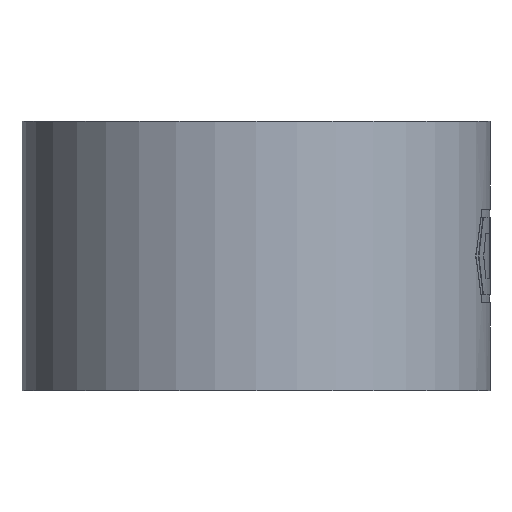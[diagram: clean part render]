
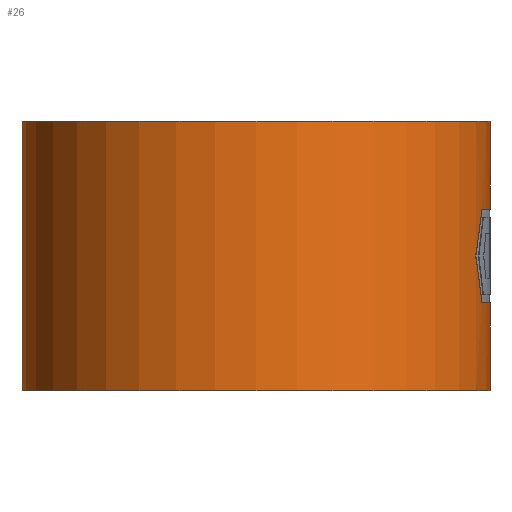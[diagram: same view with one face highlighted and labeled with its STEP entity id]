
A CAD part, front view. The second image highlights one B-rep face of the part: STEP entity #26.
In plain terms, the highlighted cylindrical face has radius 10 mm (diameter 20 mm), a partial arc.
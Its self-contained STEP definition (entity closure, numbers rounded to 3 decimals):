
#23 = VERTEX_POINT ( 'NONE', #737 ) ;
#26 = ADVANCED_FACE ( 'NONE', ( #692 ), #716, .T. ) ;
#27 = EDGE_LOOP ( 'NONE', ( #28, #30, #126, #127, #130, #265, #43, #45, #252 ) ) ;
#28 = ORIENTED_EDGE ( 'NONE', *, *, #124, .F. ) ;
#30 = ORIENTED_EDGE ( 'NONE', *, *, #34, .T. ) ;
#34 = EDGE_CURVE ( 'NONE', #23, #196, #648, .T. ) ;
#43 = ORIENTED_EDGE ( 'NONE', *, *, #44, .F. ) ;
#44 = EDGE_CURVE ( 'NONE', #205, #119, #653, .T. ) ;
#45 = ORIENTED_EDGE ( 'NONE', *, *, #204, .T. ) ;
#87 = EDGE_CURVE ( 'NONE', #196, #95, #627, .T. ) ;
#95 = VERTEX_POINT ( 'NONE', #703 ) ;
#118 = EDGE_CURVE ( 'NONE', #119, #132, #821, .T. ) ;
#119 = VERTEX_POINT ( 'NONE', #820 ) ;
#124 = EDGE_CURVE ( 'NONE', #23, #125, #816, .T. ) ;
#125 = VERTEX_POINT ( 'NONE', #818 ) ;
#126 = ORIENTED_EDGE ( 'NONE', *, *, #87, .T. ) ;
#127 = ORIENTED_EDGE ( 'NONE', *, *, #128, .F. ) ;
#128 = EDGE_CURVE ( 'NONE', #129, #95, #768, .T. ) ;
#129 = VERTEX_POINT ( 'NONE', #817 ) ;
#130 = ORIENTED_EDGE ( 'NONE', *, *, #131, .T. ) ;
#131 = EDGE_CURVE ( 'NONE', #129, #132, #783, .T. ) ;
#132 = VERTEX_POINT ( 'NONE', #782 ) ;
#196 = VERTEX_POINT ( 'NONE', #946 ) ;
#204 = EDGE_CURVE ( 'NONE', #205, #214, #884, .T. ) ;
#205 = VERTEX_POINT ( 'NONE', #966 ) ;
#214 = VERTEX_POINT ( 'NONE', #981 ) ;
#252 = ORIENTED_EDGE ( 'NONE', *, *, #253, .F. ) ;
#253 = EDGE_CURVE ( 'NONE', #125, #214, #995, .T. ) ;
#265 = ORIENTED_EDGE ( 'NONE', *, *, #118, .F. ) ;
#594 = CARTESIAN_POINT ( 'NONE',  ( 0., 0., -11.5 ) ) ;
#614 = DIRECTION ( 'NONE',  ( 1., 0., 0. ) ) ;
#615 = DIRECTION ( 'NONE',  ( 0., 0., 1. ) ) ;
#618 = DIRECTION ( 'NONE',  ( 1., 0., 0. ) ) ;
#619 = DIRECTION ( 'NONE',  ( 0., 0., 1. ) ) ;
#620 = CARTESIAN_POINT ( 'NONE',  ( 0., 0., 0. ) ) ;
#624 = DIRECTION ( 'NONE',  ( 0., 0., 1. ) ) ;
#625 = VECTOR ( 'NONE', #624, 1000. ) ;
#626 = CARTESIAN_POINT ( 'NONE',  ( 10., 0., 0. ) ) ;
#627 = LINE ( 'NONE', #626, #625 ) ;
#648 = CIRCLE ( 'NONE', #682, 10. ) ;
#652 = AXIS2_PLACEMENT_3D ( 'NONE', #730, #741, #740 ) ;
#653 = CIRCLE ( 'NONE', #652, 10. ) ;
#682 = AXIS2_PLACEMENT_3D ( 'NONE', #594, #615, #614 ) ;
#691 = AXIS2_PLACEMENT_3D ( 'NONE', #620, #619, #618 ) ;
#692 = FACE_OUTER_BOUND ( 'NONE', #27, .T. ) ;
#703 = CARTESIAN_POINT ( 'NONE',  ( 10., 0., -7.75 ) ) ;
#716 = CYLINDRICAL_SURFACE ( 'NONE', #691, 10. ) ;
#730 = CARTESIAN_POINT ( 'NONE',  ( 0., 0., -3.75 ) ) ;
#737 = CARTESIAN_POINT ( 'NONE',  ( -10., 0., -11.5 ) ) ;
#740 = DIRECTION ( 'NONE',  ( -1., 0., 0. ) ) ;
#741 = DIRECTION ( 'NONE',  ( 0., 0., -1. ) ) ;
#764 = DIRECTION ( 'NONE',  ( 1., 0., 0. ) ) ;
#765 = DIRECTION ( 'NONE',  ( 0., 0., 1. ) ) ;
#766 = CARTESIAN_POINT ( 'NONE',  ( 0., 0., -7.75 ) ) ;
#767 = AXIS2_PLACEMENT_3D ( 'NONE', #766, #765, #764 ) ;
#768 = CIRCLE ( 'NONE', #767, 10. ) ;
#781 = CARTESIAN_POINT ( 'NONE',  ( 9.661, -2.582, -7.75 ) ) ;
#782 = CARTESIAN_POINT ( 'NONE',  ( 9.401, -3.41, -5.75 ) ) ;
#783 = B_SPLINE_CURVE_WITH_KNOTS ( 'NONE', 3,
 ( #781, #791, #790, #789 ),
 .UNSPECIFIED., .F., .F.,
 ( 4, 4 ),
 ( 0., 1. ),
 .UNSPECIFIED. ) ;
#786 = CARTESIAN_POINT ( 'NONE',  ( 9.661, -2.582, -3.75 ) ) ;
#789 = CARTESIAN_POINT ( 'NONE',  ( 9.401, -3.41, -5.75 ) ) ;
#790 = CARTESIAN_POINT ( 'NONE',  ( 9.495, -3.15, -6.377 ) ) ;
#791 = CARTESIAN_POINT ( 'NONE',  ( 9.583, -2.874, -7.044 ) ) ;
#813 = DIRECTION ( 'NONE',  ( 0., 0., 1. ) ) ;
#814 = VECTOR ( 'NONE', #813, 1000. ) ;
#815 = CARTESIAN_POINT ( 'NONE',  ( -10., 0., 0. ) ) ;
#816 = LINE ( 'NONE', #815, #814 ) ;
#817 = CARTESIAN_POINT ( 'NONE',  ( 9.661, -2.582, -7.75 ) ) ;
#818 = CARTESIAN_POINT ( 'NONE',  ( -10., 0., 0. ) ) ;
#820 = CARTESIAN_POINT ( 'NONE',  ( 9.661, -2.582, -3.75 ) ) ;
#821 = B_SPLINE_CURVE_WITH_KNOTS ( 'NONE', 3,
 ( #786, #827, #826, #825 ),
 .UNSPECIFIED., .F., .F.,
 ( 4, 4 ),
 ( 0., 1. ),
 .UNSPECIFIED. ) ;
#825 = CARTESIAN_POINT ( 'NONE',  ( 9.401, -3.41, -5.75 ) ) ;
#826 = CARTESIAN_POINT ( 'NONE',  ( 9.499, -3.138, -5.092 ) ) ;
#827 = CARTESIAN_POINT ( 'NONE',  ( 9.586, -2.861, -4.426 ) ) ;
#884 = LINE ( 'NONE', #969, #968 ) ;
#946 = CARTESIAN_POINT ( 'NONE',  ( 10., 0., -11.5 ) ) ;
#966 = CARTESIAN_POINT ( 'NONE',  ( 10., 0., -3.75 ) ) ;
#967 = DIRECTION ( 'NONE',  ( 0., 0., 1. ) ) ;
#968 = VECTOR ( 'NONE', #967, 1000. ) ;
#969 = CARTESIAN_POINT ( 'NONE',  ( 10., 0., 0. ) ) ;
#981 = CARTESIAN_POINT ( 'NONE',  ( 10., 0., 0. ) ) ;
#995 = CIRCLE ( 'NONE', #1008, 10. ) ;
#999 = CARTESIAN_POINT ( 'NONE',  ( 0., 0., 0. ) ) ;
#1007 = DIRECTION ( 'NONE',  ( 1., 0., 0. ) ) ;
#1008 = AXIS2_PLACEMENT_3D ( 'NONE', #999, #1011, #1007 ) ;
#1011 = DIRECTION ( 'NONE',  ( 0., 0., 1. ) ) ;
